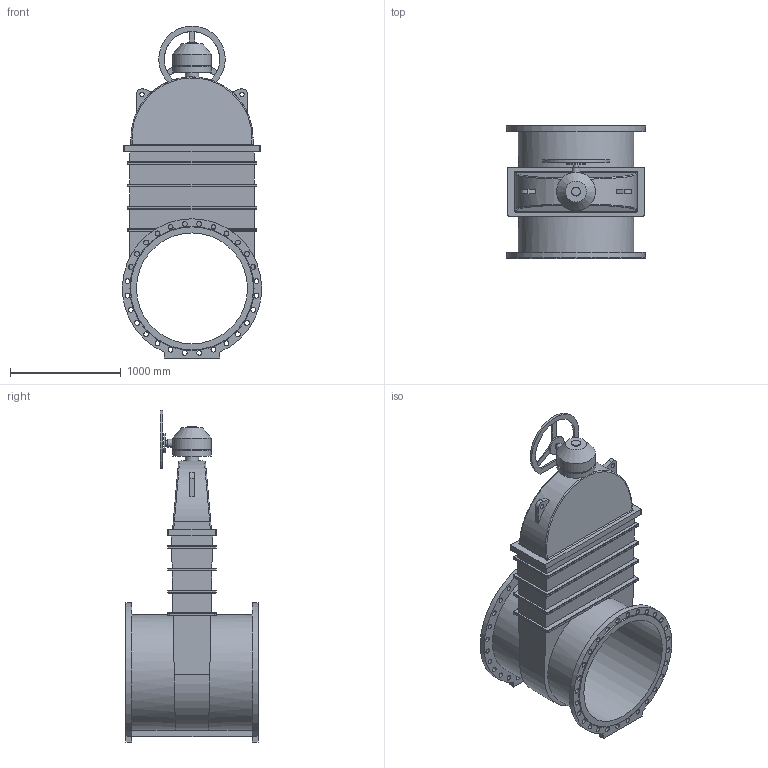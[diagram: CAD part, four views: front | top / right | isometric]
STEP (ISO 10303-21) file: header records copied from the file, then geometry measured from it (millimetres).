
FILE_DESCRIPTION(('STEP AP203'), '1');
FILE_NAME('Çàäâèæêà 47GV DN1000 PN16_L1200 + ðåäóêòîð ñ ìàõîâèêîì', '', ('UNSPECIFIED'), ('UNSPECIFIED'), 'ASCON STEP Converter 1.6', 'ASCON Math Kernel', '');
FILE_SCHEMA(('CONFIG_CONTROL_DESIGN'));
Length unit declared in the file: millimetre
Bounding box: 1254.27 x 1200 x 2992.5 mm (x, y, z)
Volume: 701376881.7 mm3; surface area: 16000286.1 mm2
Topology: 1 solids, 1 shells, 297 faces, 738 edges, 469 vertices
Faces by surface type: cylinder 144, plane 114, bspline 36, cone 3
Full cylindrical faces by diameter (mm): 30 x1, 40 x2, 44 x56, 50 x1, 70 x1, 80 x1, 100 x1, 120 x1, 175 x1, 330 x1, 350 x2, 1000 x1
Entity records: 14502 total; most frequent: CARTESIAN_POINT 5211, DIRECTION 1359, ORIENTED_EDGE 1332, EDGE_CURVE 666, AXIS2_PLACEMENT_3D 523, EDGE_LOOP 519, VERTEX_POINT 469, FACE_BOUND 376
